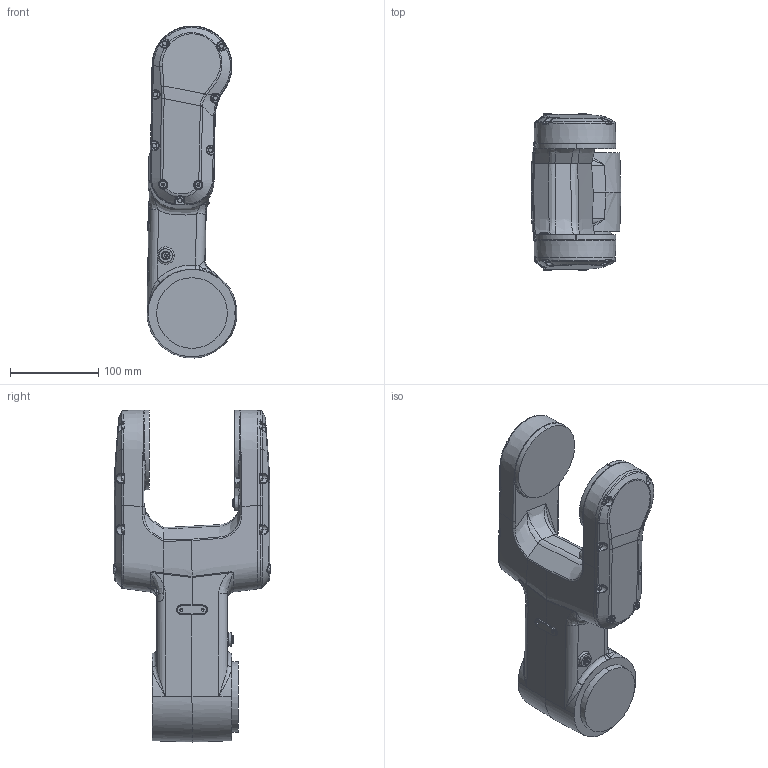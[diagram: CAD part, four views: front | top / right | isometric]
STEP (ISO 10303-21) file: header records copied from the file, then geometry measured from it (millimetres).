
FILE_DESCRIPTION (( 'STEP AP203' ), '1' );
FILE_NAME ('IRB1100_4kg-580-STD_OmniCore_rev04_Link02_CAD.STEP', '2023-07-10T07:21:21', ( '' ), ( '' ), 'SwSTEP 2.0', 'SolidWorks 2020', '' );
FILE_SCHEMA (( 'CONFIG_CONTROL_DESIGN' ));
Products named in the file (1): IRB1100_4kg-580-STD_OmniCore_rev04_Link02_CAD
Bounding box: 101.99 x 179 x 376.26 mm (x, y, z)
Volume: 2513350.3 mm3; surface area: 171412.4 mm2
Topology: 1 solids, 13 shells, 805 faces, 1985 edges, 1188 vertices
Faces by surface type: bspline 354, cylinder 174, plane 135, cone 87, torus 55
Entity records: 53497 total; most frequent: CARTESIAN_POINT 37845, ORIENTED_EDGE 3878, DIRECTION 2348, EDGE_CURVE 1939, VERTEX_POINT 1188, AXIS2_PLACEMENT_3D 957, B_SPLINE_CURVE_WITH_KNOTS 901, EDGE_LOOP 833
